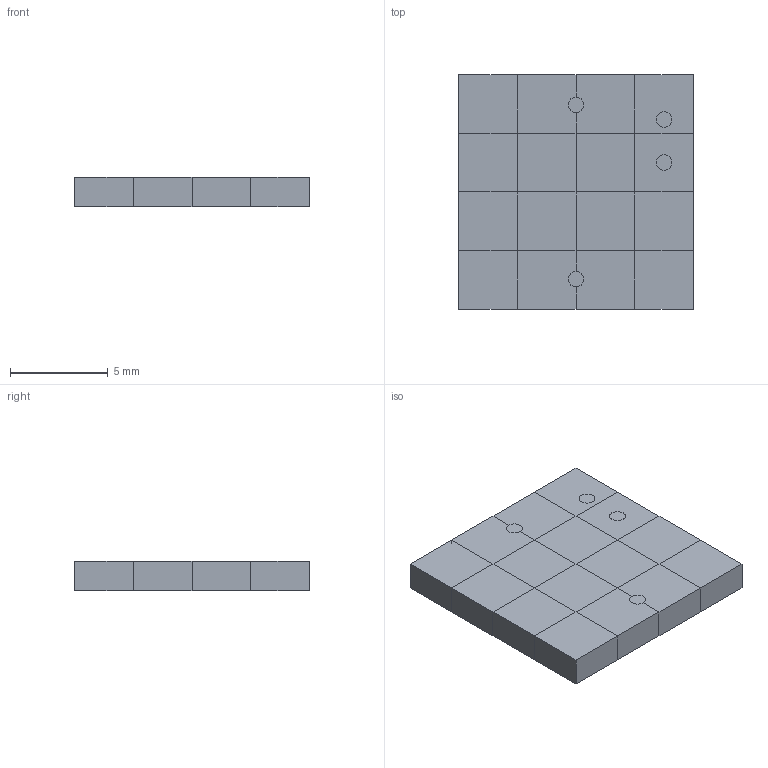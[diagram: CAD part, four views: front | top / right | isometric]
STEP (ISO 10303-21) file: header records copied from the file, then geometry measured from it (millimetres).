
FILE_DESCRIPTION(('Open CASCADE Model'),'2;1');
FILE_NAME('Open CASCADE Shape Model','2026-11-27T10:17:18',('Author'),( 'Open CASCADE'),'Open CASCADE STEP processor 7.9','Open CASCADE 7.9' ,'Unknown');
FILE_SCHEMA(('AUTOMOTIVE_DESIGN { 1 0 10303 214 1 1 1 1 }'));
Length unit declared in the file: millimetre
Products named in the file (3): manifold_N21; fluid; solid
Assembly tree (2 placements, depth 2):
  manifold_N21
    fluid
    solid
Bounding box: 12 x 12 x 1.5 mm (x, y, z)
Volume: 216 mm3; surface area: 1185.7 mm2
Topology: 2 solids, 2 shells, 858 faces, 2714 edges, 1604 vertices
Faces by surface type: plane 850, cylinder 8
Full cylindrical faces by diameter (mm): 0.8 x8
Entity records: 64810 total; most frequent: CARTESIAN_POINT 11787, DIRECTION 9620, LINE 7554, VECTOR 7554, ORIENTED_EDGE 5428, PCURVE 5428, DEFINITIONAL_REPRESENTATION 5428, EDGE_CURVE 2714
